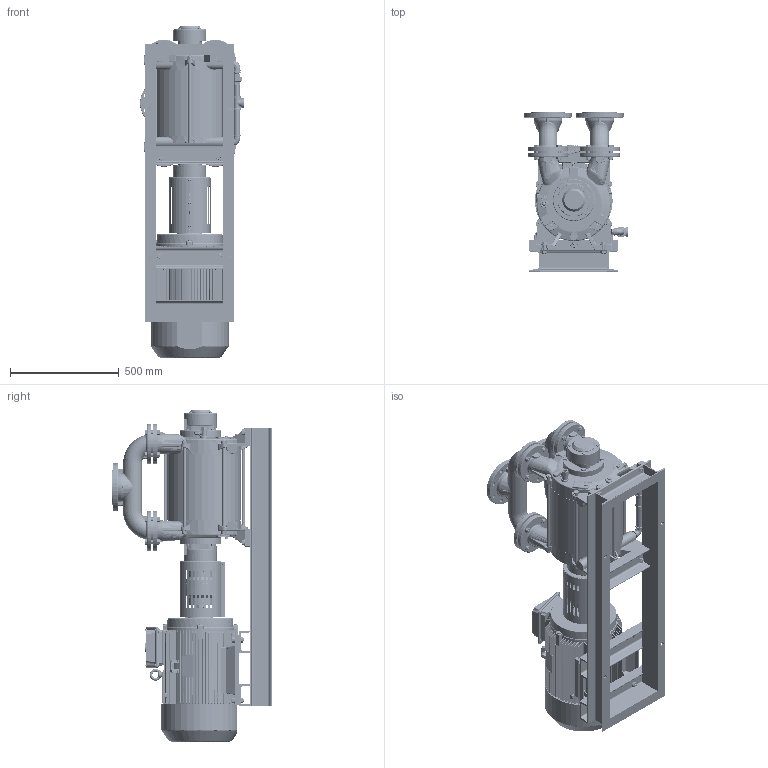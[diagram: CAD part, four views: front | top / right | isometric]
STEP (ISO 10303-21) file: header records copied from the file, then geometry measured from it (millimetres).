
FILE_DESCRIPTION (( 'STEP AP214' ), '1' );
FILE_NAME ('GMVT 275-300 MONTAJ IE3 MOTORLU.STEP', '2024-05-09T13:39:16', ( '' ), ( '' ), 'SwSTEP 2.0', 'SolidWorks 2024', '' );
FILE_SCHEMA (( 'AUTOMOTIVE_DESIGN' ));
Length unit declared in the file: millimetre
Products named in the file (1): GMVT 275-300 MONTAJ IE3 MOTORLU
Bounding box: 478.54 x 732 x 1528.01 mm (x, y, z)
Volume: 118293619.8 mm3; surface area: 6985622.9 mm2
Topology: 97 solids, 125 shells, 14149 faces, 36331 edges, 22819 vertices
Faces by surface type: plane 5097, cylinder 4729, bspline 1783, cone 1650, torus 707, sphere 183
Entity records: 613033 total; most frequent: CARTESIAN_POINT 300680, ORIENTED_EDGE 71970, DIRECTION 53985, EDGE_CURVE 35985, VERTEX_POINT 22799, AXIS2_PLACEMENT_3D 20529, EDGE_LOOP 15220, B_SPLINE_CURVE_WITH_KNOTS 14513
